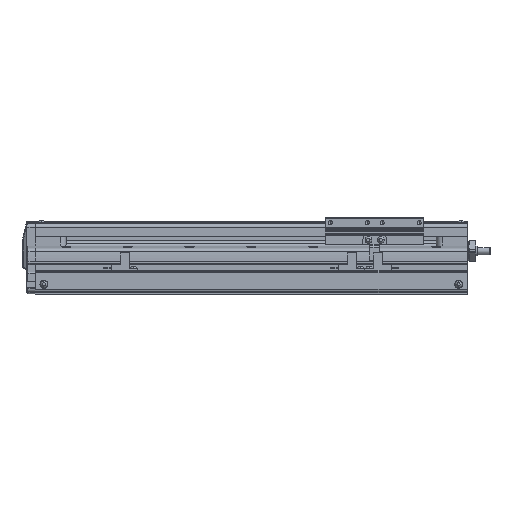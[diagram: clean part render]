
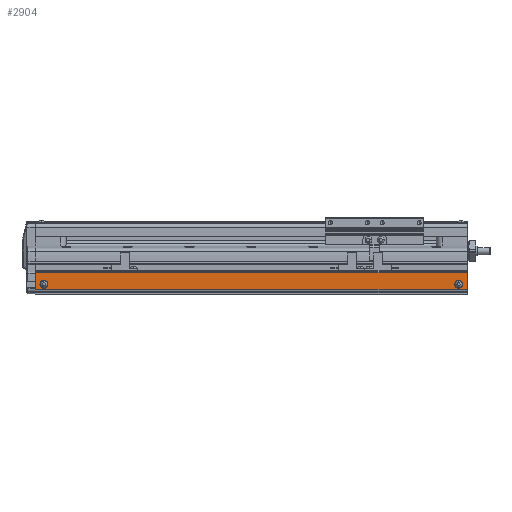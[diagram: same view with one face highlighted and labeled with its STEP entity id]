
A CAD part, left-side view. The second image highlights one B-rep face of the part: STEP entity #2904.
In plain terms, the highlighted planar face has unit normal (-1, 0, 0).
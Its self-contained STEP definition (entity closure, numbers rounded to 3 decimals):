
#2904=ADVANCED_FACE('',(#7504,#7505,#7506),#7507,.F.);
#7504=FACE_BOUND('',#14378,.T.);
#7505=FACE_BOUND('',#14379,.T.);
#7506=FACE_OUTER_BOUND('',#14380,.T.);
#7507=PLANE('',#14381);
#14378=EDGE_LOOP('',(#22420,#22421));
#14379=EDGE_LOOP('',(#22422,#22423));
#14380=EDGE_LOOP('',(#22424,#22425,#22426,#22427));
#14381=AXIS2_PLACEMENT_3D('',#22428,#22429,#22430);
#22420=ORIENTED_EDGE('',*,*,#41379,.F.);
#22421=ORIENTED_EDGE('',*,*,#41380,.F.);
#22422=ORIENTED_EDGE('',*,*,#41381,.F.);
#22423=ORIENTED_EDGE('',*,*,#41382,.F.);
#22424=ORIENTED_EDGE('',*,*,#41383,.F.);
#22425=ORIENTED_EDGE('',*,*,#41384,.F.);
#22426=ORIENTED_EDGE('',*,*,#41111,.F.);
#22427=ORIENTED_EDGE('',*,*,#41385,.T.);
#22428=CARTESIAN_POINT('',(251.5,490.,-23.942));
#22429=DIRECTION('',(1.,0.,0.));
#22430=DIRECTION('',(0.,0.,1.));
#41111=EDGE_CURVE('',#49147,#49149,#49150,.T.);
#41379=EDGE_CURVE('',#49616,#49617,#49618,.T.);
#41380=EDGE_CURVE('',#49617,#49616,#49619,.T.);
#41381=EDGE_CURVE('',#49620,#49621,#49622,.T.);
#41382=EDGE_CURVE('',#49621,#49620,#49623,.T.);
#41383=EDGE_CURVE('',#49624,#49625,#49626,.T.);
#41384=EDGE_CURVE('',#49149,#49624,#49627,.T.);
#41385=EDGE_CURVE('',#49147,#49625,#49628,.T.);
#49147=VERTEX_POINT('',#60708);
#49149=VERTEX_POINT('',#60710);
#49150=LINE('',#60711,#60712);
#49616=VERTEX_POINT('',#61370);
#49617=VERTEX_POINT('',#61371);
#49618=CIRCLE('',#61372,3.25);
#49619=CIRCLE('',#61373,3.25);
#49620=VERTEX_POINT('',#61374);
#49621=VERTEX_POINT('',#61375);
#49622=CIRCLE('',#61376,3.25);
#49623=CIRCLE('',#61377,3.25);
#49624=VERTEX_POINT('',#61378);
#49625=VERTEX_POINT('',#61379);
#49626=LINE('',#61380,#61381);
#49627=LINE('',#61382,#61383);
#49628=LINE('',#61384,#61385);
#60708=CARTESIAN_POINT('',(251.5,490.,-30.864));
#60710=CARTESIAN_POINT('',(251.5,490.,-17.02));
#60711=CARTESIAN_POINT('',(251.5,490.,-30.864));
#60712=VECTOR('',#76008,10.0);
#61370=CARTESIAN_POINT('',(251.5,486.25,-27.));
#61371=CARTESIAN_POINT('',(251.5,479.75,-27.));
#61372=AXIS2_PLACEMENT_3D('',#76330,#76331,#76332);
#61373=AXIS2_PLACEMENT_3D('',#76333,#76334,#76335);
#61374=CARTESIAN_POINT('',(251.5,143.75,-27.));
#61375=CARTESIAN_POINT('',(251.5,150.25,-27.));
#61376=AXIS2_PLACEMENT_3D('',#76336,#76337,#76338);
#61377=AXIS2_PLACEMENT_3D('',#76339,#76340,#76341);
#61378=CARTESIAN_POINT('',(251.5,140.,-17.02));
#61379=CARTESIAN_POINT('',(251.5,140.,-30.864));
#61380=CARTESIAN_POINT('',(251.5,140.,-30.864));
#61381=VECTOR('',#76342,10.0);
#61382=CARTESIAN_POINT('',(251.5,490.,-17.02));
#61383=VECTOR('',#76343,10.0);
#61384=CARTESIAN_POINT('',(251.5,490.,-30.864));
#61385=VECTOR('',#76344,10.0);
#76008=DIRECTION('',(0.,0.,1.));
#76330=CARTESIAN_POINT('',(251.5,483.,-27.));
#76331=DIRECTION('',(-1.,0.,0.));
#76332=DIRECTION('',(0.,1.0,0.));
#76333=CARTESIAN_POINT('',(251.5,483.,-27.));
#76334=DIRECTION('',(-1.,0.,0.));
#76335=DIRECTION('',(0.,1.0,0.));
#76336=CARTESIAN_POINT('',(251.5,147.,-27.));
#76337=DIRECTION('',(-1.,0.,0.));
#76338=DIRECTION('',(0.,-1.0,0.));
#76339=CARTESIAN_POINT('',(251.5,147.,-27.));
#76340=DIRECTION('',(-1.,0.,0.));
#76341=DIRECTION('',(0.,-1.0,0.));
#76342=DIRECTION('',(0.,0.,-1.));
#76343=DIRECTION('',(0.,-1.0,0.));
#76344=DIRECTION('',(0.,-1.0,0.));
